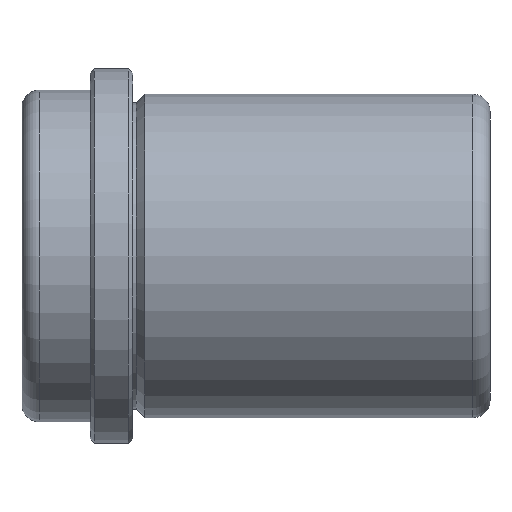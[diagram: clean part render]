
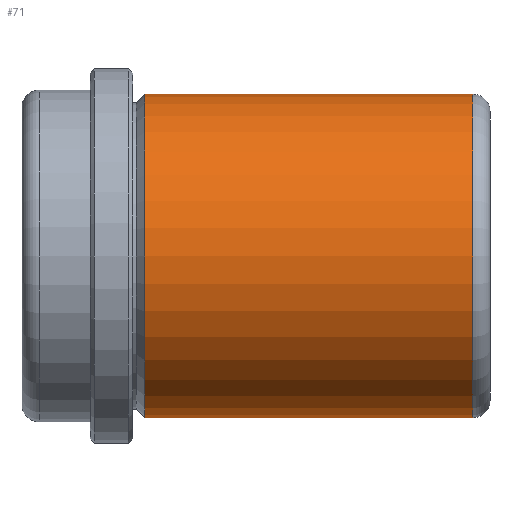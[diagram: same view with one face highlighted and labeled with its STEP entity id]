
A CAD part, front view. The second image highlights one B-rep face of the part: STEP entity #71.
In plain terms, the highlighted cylindrical face has radius 19 mm (diameter 38 mm), a full revolution.
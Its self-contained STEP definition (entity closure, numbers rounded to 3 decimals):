
#71 = ADVANCED_FACE( '', ( #155, #156, #157 ), #158, .T. );
#155 = FACE_OUTER_BOUND( '', #240, .T. );
#156 = FACE_BOUND( '', #241, .T. );
#157 = FACE_OUTER_BOUND( '', #242, .T. );
#158 = CYLINDRICAL_SURFACE( '', #243, 19. );
#240 = EDGE_LOOP( '', ( #347 ) );
#241 = EDGE_LOOP( '', ( #348 ) );
#242 = EDGE_LOOP( '', ( #349 ) );
#243 = AXIS2_PLACEMENT_3D( '', #350, #351, #352 );
#347 = ORIENTED_EDGE( '', *, *, #388, .T. );
#348 = ORIENTED_EDGE( '', *, *, #382, .T. );
#349 = ORIENTED_EDGE( '', *, *, #402, .F. );
#350 = CARTESIAN_POINT( '', ( 42., 0., 0. ) );
#351 = DIRECTION( '', ( -1., 0., 0. ) );
#352 = DIRECTION( '', ( 0., 0., -1. ) );
#382 = EDGE_CURVE( '', #424, #424, #425, .T. );
#388 = EDGE_CURVE( '', #434, #434, #435, .T. );
#402 = EDGE_CURVE( '', #456, #456, #457, .T. );
#424 = VERTEX_POINT( '', #540 );
#425 = B_SPLINE_CURVE_WITH_KNOTS( '', 3, ( #541, #542, #543, #544, #545, #546, #547, #548, #549, #550, #551, #552, #553, #554, #555, #556, #557, #558, #559, #560, #561, #562, #563, #564, #565, #566, #567, #568, #569, #570, #571, #572, #573, #574, #575, #576, #577, #578, #579, #580, #581, #582, #583, #584, #585, #586, #587, #588, #589, #590, #591, #592, #593, #594, #595, #596, #597, #598, #599, #600, #601, #602 ), .UNSPECIFIED., .T., .F., ( 2, 2, 2, 2, 2, 2, 2, 2, 2, 2, 2, 2, 2, 2, 2, 2, 2, 2, 2, 2, 2, 2, 2, 2, 2, 2, 2, 2, 2, 2, 2, 2, 2 ), ( -0.001, 0., 0., 0.001, 0.001, 0.002, 0.002, 0.003, 0.003, 0.004, 0.004, 0.005, 0.005, 0.006, 0.006, 0.007, 0.007, 0.008, 0.008, 0.009, 0.009, 0.01, 0.01, 0.011, 0.011, 0.012, 0.012, 0.013, 0.013, 0.014, 0.015, 0.016, 0.016 ), .UNSPECIFIED. );
#434 = VERTEX_POINT( '', #611 );
#435 = CIRCLE( '', #612, 19. );
#456 = VERTEX_POINT( '', #633 );
#457 = CIRCLE( '', #634, 19. );
#540 = CARTESIAN_POINT( '', ( 12., 18.835, -2.5 ) );
#541 = CARTESIAN_POINT( '', ( 11.669, 18.835, -2.5 ) );
#542 = CARTESIAN_POINT( '', ( 12.165, 18.835, -2.5 ) );
#543 = CARTESIAN_POINT( '', ( 12.328, 18.837, -2.484 ) );
#544 = CARTESIAN_POINT( '', ( 12.648, 18.845, -2.42 ) );
#545 = CARTESIAN_POINT( '', ( 12.807, 18.851, -2.372 ) );
#546 = CARTESIAN_POINT( '', ( 13.109, 18.867, -2.246 ) );
#547 = CARTESIAN_POINT( '', ( 13.253, 18.876, -2.17 ) );
#548 = CARTESIAN_POINT( '', ( 13.524, 18.896, -1.988 ) );
#549 = CARTESIAN_POINT( '', ( 13.653, 18.907, -1.883 ) );
#550 = CARTESIAN_POINT( '', ( 13.883, 18.928, -1.652 ) );
#551 = CARTESIAN_POINT( '', ( 13.987, 18.939, -1.527 ) );
#552 = CARTESIAN_POINT( '', ( 14.169, 18.959, -1.253 ) );
#553 = CARTESIAN_POINT( '', ( 14.247, 18.968, -1.108 ) );
#554 = CARTESIAN_POINT( '', ( 14.372, 18.983, -0.807 ) );
#555 = CARTESIAN_POINT( '', ( 14.42, 18.99, -0.65 ) );
#556 = CARTESIAN_POINT( '', ( 14.484, 18.998, -0.327 ) );
#557 = CARTESIAN_POINT( '', ( 14.5, 19., -0.165 ) );
#558 = CARTESIAN_POINT( '', ( 14.5, 19., 0.162 ) );
#559 = CARTESIAN_POINT( '', ( 14.484, 18.998, 0.328 ) );
#560 = CARTESIAN_POINT( '', ( 14.42, 18.99, 0.648 ) );
#561 = CARTESIAN_POINT( '', ( 14.373, 18.984, 0.804 ) );
#562 = CARTESIAN_POINT( '', ( 14.247, 18.968, 1.107 ) );
#563 = CARTESIAN_POINT( '', ( 14.169, 18.959, 1.253 ) );
#564 = CARTESIAN_POINT( '', ( 13.988, 18.939, 1.524 ) );
#565 = CARTESIAN_POINT( '', ( 13.885, 18.929, 1.65 ) );
#566 = CARTESIAN_POINT( '', ( 13.652, 18.907, 1.884 ) );
#567 = CARTESIAN_POINT( '', ( 13.526, 18.896, 1.987 ) );
#568 = CARTESIAN_POINT( '', ( 13.255, 18.876, 2.168 ) );
#569 = CARTESIAN_POINT( '', ( 13.109, 18.867, 2.247 ) );
#570 = CARTESIAN_POINT( '', ( 12.806, 18.851, 2.372 ) );
#571 = CARTESIAN_POINT( '', ( 12.651, 18.845, 2.419 ) );
#572 = CARTESIAN_POINT( '', ( 12.33, 18.837, 2.484 ) );
#573 = CARTESIAN_POINT( '', ( 12.164, 18.835, 2.5 ) );
#574 = CARTESIAN_POINT( '', ( 11.838, 18.835, 2.5 ) );
#575 = CARTESIAN_POINT( '', ( 11.675, 18.837, 2.484 ) );
#576 = CARTESIAN_POINT( '', ( 11.352, 18.845, 2.42 ) );
#577 = CARTESIAN_POINT( '', ( 11.195, 18.851, 2.372 ) );
#578 = CARTESIAN_POINT( '', ( 10.894, 18.867, 2.248 ) );
#579 = CARTESIAN_POINT( '', ( 10.748, 18.876, 2.17 ) );
#580 = CARTESIAN_POINT( '', ( 10.475, 18.896, 1.988 ) );
#581 = CARTESIAN_POINT( '', ( 10.349, 18.907, 1.885 ) );
#582 = CARTESIAN_POINT( '', ( 10.119, 18.928, 1.654 ) );
#583 = CARTESIAN_POINT( '', ( 10.013, 18.939, 1.526 ) );
#584 = CARTESIAN_POINT( '', ( 9.831, 18.959, 1.255 ) );
#585 = CARTESIAN_POINT( '', ( 9.755, 18.968, 1.111 ) );
#586 = CARTESIAN_POINT( '', ( 9.629, 18.983, 0.809 ) );
#587 = CARTESIAN_POINT( '', ( 9.58, 18.99, 0.65 ) );
#588 = CARTESIAN_POINT( '', ( 9.517, 18.998, 0.33 ) );
#589 = CARTESIAN_POINT( '', ( 9.5, 19., 0.168 ) );
#590 = CARTESIAN_POINT( '', ( 9.5, 19., -0.163 ) );
#591 = CARTESIAN_POINT( '', ( 9.516, 18.998, -0.326 ) );
#592 = CARTESIAN_POINT( '', ( 9.579, 18.99, -0.645 ) );
#593 = CARTESIAN_POINT( '', ( 9.627, 18.984, -0.804 ) );
#594 = CARTESIAN_POINT( '', ( 9.753, 18.968, -1.107 ) );
#595 = CARTESIAN_POINT( '', ( 9.829, 18.959, -1.251 ) );
#596 = CARTESIAN_POINT( '', ( 10.01, 18.939, -1.523 ) );
#597 = CARTESIAN_POINT( '', ( 10.116, 18.928, -1.651 ) );
#598 = CARTESIAN_POINT( '', ( 10.461, 18.896, -1.997 ) );
#599 = CARTESIAN_POINT( '', ( 10.739, 18.875, -2.183 ) );
#600 = CARTESIAN_POINT( '', ( 11.341, 18.844, -2.433 ) );
#601 = CARTESIAN_POINT( '', ( 11.669, 18.835, -2.5 ) );
#602 = CARTESIAN_POINT( '', ( 12.165, 18.835, -2.5 ) );
#611 = CARTESIAN_POINT( '', ( 1.414, 0., -19. ) );
#612 = AXIS2_PLACEMENT_3D( '', #667, #668, #669 );
#633 = CARTESIAN_POINT( '', ( 40., 0., -19. ) );
#634 = AXIS2_PLACEMENT_3D( '', #691, #692, #693 );
#667 = CARTESIAN_POINT( '', ( 1.414, 0., 0. ) );
#668 = DIRECTION( '', ( 1., 0., 0. ) );
#669 = DIRECTION( '', ( 0., 0., -1. ) );
#691 = CARTESIAN_POINT( '', ( 40., 0., 0. ) );
#692 = DIRECTION( '', ( 1., 0., 0. ) );
#693 = DIRECTION( '', ( 0., 0., -1. ) );
